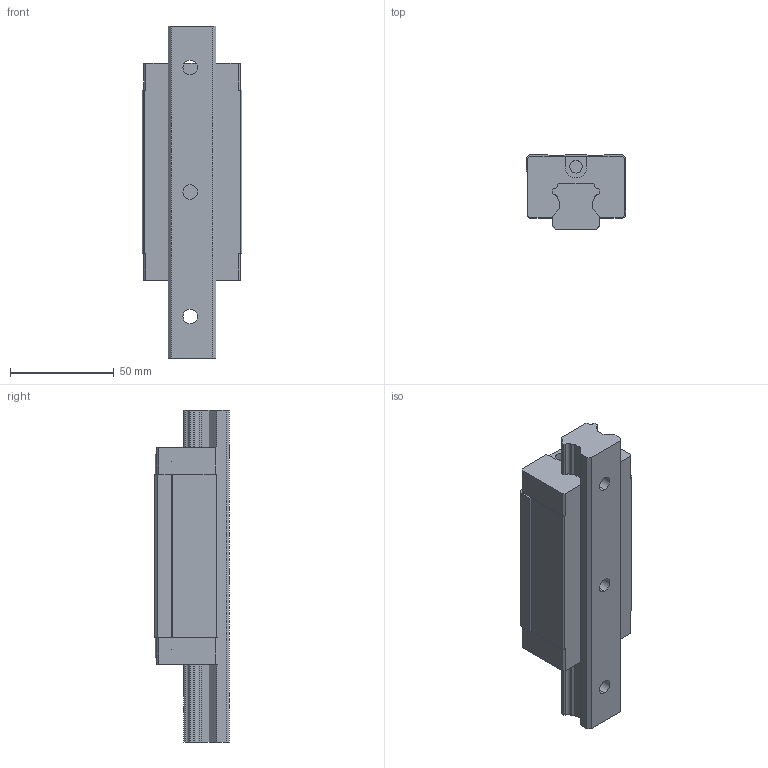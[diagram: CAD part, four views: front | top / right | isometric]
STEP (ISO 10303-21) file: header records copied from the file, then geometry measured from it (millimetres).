
FILE_DESCRIPTION((''),'2;1');
FILE_NAME('ASM0004_ASM','2008-07-14T',('immo'),(''),'PRO/ENGINEER BY PARAMETRIC TECHNOLOGY CORPORATION, 2004360','PRO/ENGINEER BY PARAMETRIC TECHNOLOGY CORPORATION, 2004360','');
FILE_SCHEMA(('CONFIG_CONTROL_DESIGN'));
Length unit declared in the file: millimetre
Products named in the file (7): HG-25-BLOCK_6_4_2_1; ASM_HG25-H_ASM_6_ASM_ASM_1_ASM__ASM; HG25H_ASM_ASM_6_ASM_1_ASM_1_ASM; HGL25HA_ASM_4_ASM_1_ASM; HG-25-RAIL_6_1_1_1; ASM0001_ASM_1_ASM; ASM0004_ASM
Assembly tree (6 placements, depth 6):
  ASM0004_ASM
    ASM0001_ASM_1_ASM
      HGL25HA_ASM_4_ASM_1_ASM
        HG25H_ASM_ASM_6_ASM_1_ASM_1_ASM
          ASM_HG25-H_ASM_6_ASM_ASM_1_ASM__ASM
            HG-25-BLOCK_6_4_2_1
      HG-25-RAIL_6_1_1_1
Bounding box: 48 x 36 x 160 mm (x, y, z)
Volume: 179545.3 mm3; surface area: 41032.8 mm2
Topology: 2 solids, 2 shells, 182 faces, 510 edges, 335 vertices
Faces by surface type: plane 120, cylinder 52, cone 10
Entity records: 5951 total; most frequent: DIRECTION 1026, CARTESIAN_POINT 1019, ORIENTED_EDGE 984, EDGE_CURVE 492, VECTOR 358, LINE 358, AXIS2_PLACEMENT_3D 334, VERTEX_POINT 327
